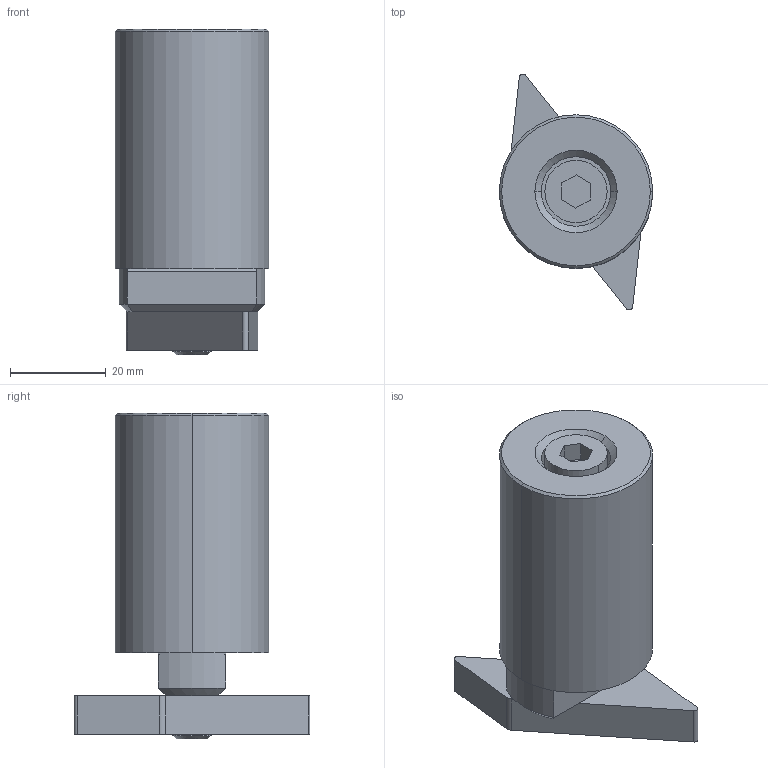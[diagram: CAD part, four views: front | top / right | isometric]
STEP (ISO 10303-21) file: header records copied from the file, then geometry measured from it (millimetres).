
FILE_DESCRIPTION (( 'STEP AP203' ), '1' );
FILE_NAME ('30200.W0214.step', '2017-06-30T11:04:05', ( 'User' ), ( '' ), 'SwSTEP 2.0', 'SolidWorks 2009', '' );
FILE_SCHEMA (( 'CONFIG_CONTROL_DESIGN' ));
Length unit declared in the file: millimetre
Products named in the file (4): screw_M8x60; Wedge_30200.W0214; 30200.W0214; Part1_30200.W0214
Assembly tree (3 placements, depth 2):
  30200.W0214
    Part1_30200.W0214
    Wedge_30200.W0214
    screw_M8x60
Bounding box: 32 x 49.2 x 68 mm (x, y, z)
Volume: 47256.8 mm3; surface area: 13466.9 mm2
Topology: 3 solids, 3 shells, 96 faces, 209 edges, 123 vertices
Faces by surface type: cone 43, plane 34, cylinder 19
Entity records: 3008 total; most frequent: DIRECTION 490, CARTESIAN_POINT 446, ORIENTED_EDGE 418, EDGE_CURVE 209, AXIS2_PLACEMENT_3D 183, LINE 124, VECTOR 124, VERTEX_POINT 123
